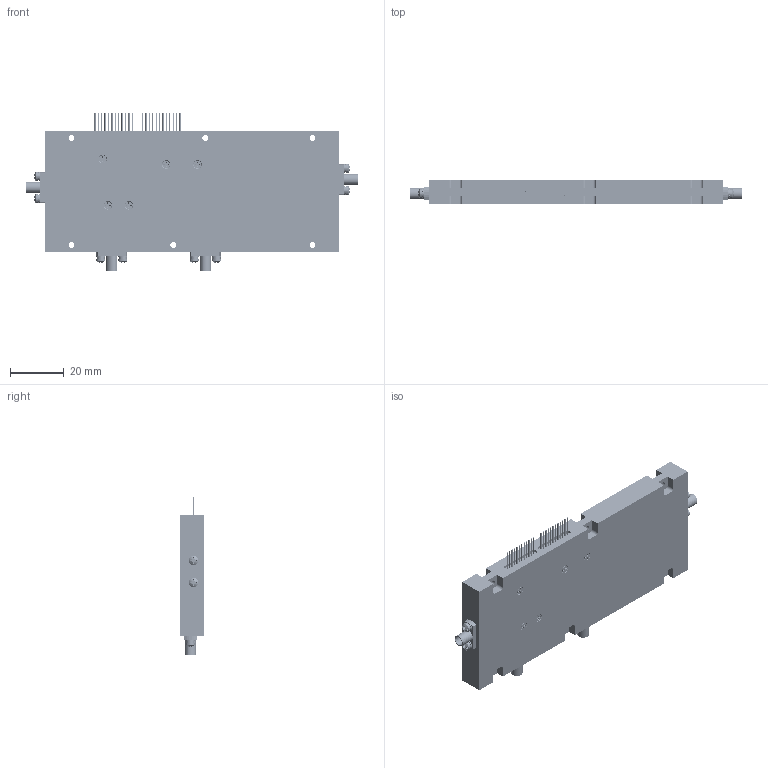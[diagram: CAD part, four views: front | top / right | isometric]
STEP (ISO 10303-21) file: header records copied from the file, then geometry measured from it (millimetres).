
FILE_DESCRIPTION (( 'STEP AP214' ), '1' );
FILE_NAME ('0.1-20GHz狟曹け.STEP', '2026-09-04T08:27:45', ( 'China' ), ( 'Microsoft' ), 'SwSTEP 2.0', 'SolidWorks 2024', '' );
FILE_SCHEMA (( 'AUTOMOTIVE_DESIGN' ));
Length unit declared in the file: millimetre
Products named in the file (8): 0.1-20GHz下变频壳体; 0.1-20GHz下变频下盖板; lp12-0.5-1.27(12-2.8); GB819十字槽沉头螺钉304不锈钢M1.6X4; 0.1-20GHz下变频; 0.1-20GHz下变频上盖板; SMP-JFD2_1; GB9074.4十字槽盘头组合螺钉304不锈钢M2X5
Assembly tree (96 placements, depth 2):
  0.1-20GHz下变频
    0.1-20GHz下变频壳体
    0.1-20GHz下变频上盖板
    0.1-20GHz下变频下盖板
    lp12-0.5-1.27(12-2.8)  x2
    SMP-JFD2_1  x4
    GB819十字槽沉头螺钉304不锈钢M1.6X4  x79
    GB9074.4十字槽盘头组合螺钉304不锈钢M2X5  x8
Bounding box: 124 x 9 x 58.7 mm (x, y, z)
Volume: 44134.5 mm3; surface area: 39800.7 mm2
Topology: 96 solids, 96 shells, 5258 faces, 14068 edges, 9077 vertices
Faces by surface type: cylinder 2803, plane 1696, cone 482, bspline 261, torus 16
Entity records: 39971 total; most frequent: CARTESIAN_POINT 9373, DIRECTION 6725, ORIENTED_EDGE 5974, EDGE_CURVE 2987, AXIS2_PLACEMENT_3D 2595, VERTEX_POINT 1909, VECTOR 1535, LINE 1535
